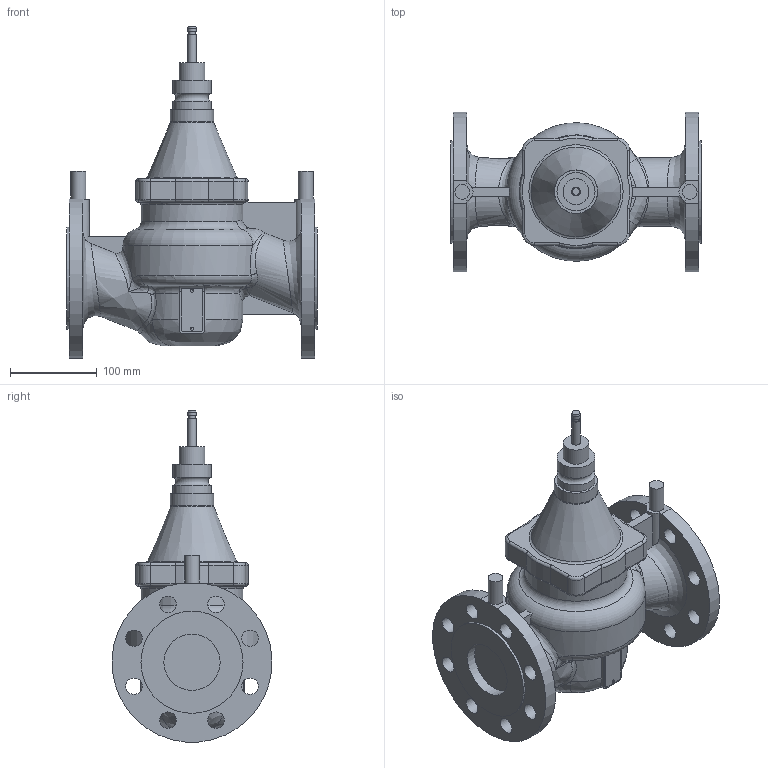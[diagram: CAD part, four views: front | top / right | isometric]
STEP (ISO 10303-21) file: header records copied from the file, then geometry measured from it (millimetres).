
FILE_DESCRIPTION(/* description */ (''),/* implementation_level */ '2;1');
FILE_NAME(/* name */ '',/* time_stamp */ '2012-10-31T10:34:03+01:00',/* author */ (''),/* organization */ (''),/* preprocessor_version */ 'ST-DEVELOPER v11',/* originating_system */ 'SIEMENS UGS NX 6.0',/* authorisation */ '');
FILE_SCHEMA (('AUTOMOTIVE_DESIGN { 1 0 10303 214 1 1 1 1 }'));
Length unit declared in the file: millimetre
Products named in the file (1): birk92A7r0o5
Bounding box: 290 x 184.72 x 383.66 mm (x, y, z)
Volume: 4601575.1 mm3; surface area: 292236.9 mm2
Topology: 1 solids, 1 shells, 195 faces, 482 edges, 299 vertices
Faces by surface type: cylinder 71, plane 56, bspline 33, torus 30, extrusion 3, cone 2
Full cylindrical faces by diameter (mm): 3.5 x2, 7 x1, 10 x2, 17 x2, 19 x16, 30 x1, 44 x2, 50 x1, 65 x2, 118 x2
Entity records: 8030 total; most frequent: CARTESIAN_POINT 3843, ORIENTED_EDGE 842, DIRECTION 813, EDGE_CURVE 421, AXIS2_PLACEMENT_3D 347, VERTEX_POINT 280, EDGE_LOOP 279, ADVANCED_FACE 195
